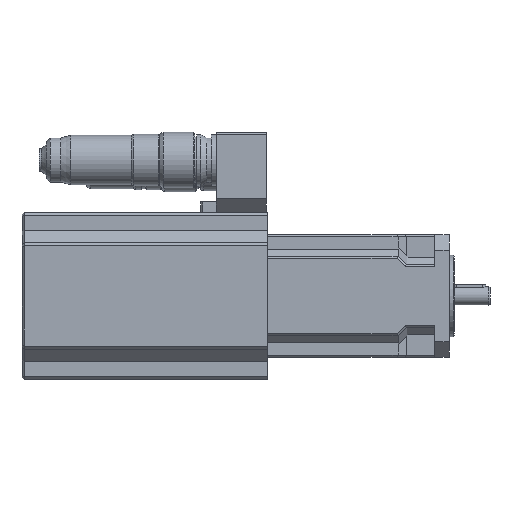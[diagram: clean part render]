
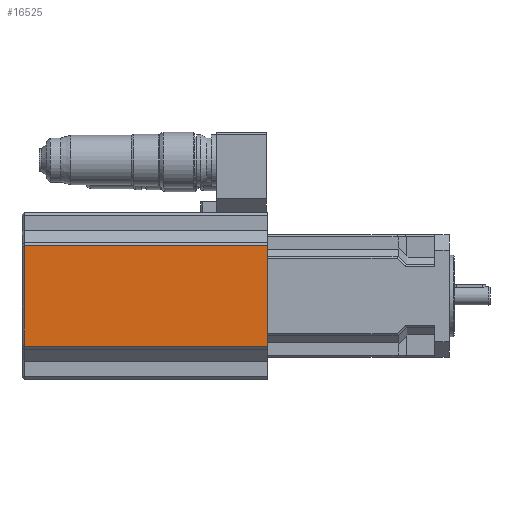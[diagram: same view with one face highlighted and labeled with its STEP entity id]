
A CAD part, front view. The second image highlights one B-rep face of the part: STEP entity #16525.
In plain terms, the highlighted planar face has unit normal (0, -1, 0).
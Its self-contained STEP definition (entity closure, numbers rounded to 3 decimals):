
#5058=CARTESIAN_POINT('',(78.621,-31.649,-34.));
#5059=VERTEX_POINT('',#5058);
#5066=CARTESIAN_POINT('',(78.621,-31.649,-83.));
#5067=VERTEX_POINT('',#5066);
#5068=CARTESIAN_POINT('',(78.621,-31.649,-34.));
#5069=DIRECTION('',(0.0,0.0,-1.0));
#5070=VECTOR('',#5069,49.);
#5071=LINE('',#5068,#5070);
#5072=EDGE_CURVE('',#5059,#5067,#5071,.T.);
#16484=CARTESIAN_POINT('',(-40.379,-31.649,-34.));
#16485=VERTEX_POINT('',#16484);
#16492=CARTESIAN_POINT('',(78.621,-31.649,-34.));
#16493=DIRECTION('',(-1.0,0.0,0.0));
#16494=VECTOR('',#16493,119.);
#16495=LINE('',#16492,#16494);
#16496=EDGE_CURVE('',#5059,#16485,#16495,.T.);
#16502=CARTESIAN_POINT('',(33.621,-31.649,-34.));
#16503=DIRECTION('',(0.0,-1.0,0.0));
#16504=DIRECTION('',(0.0,0.0,-1.0));
#16505=AXIS2_PLACEMENT_3D('',#16502,#16503,#16504);
#16506=PLANE('',#16505);
#16507=ORIENTED_EDGE('',*,*,#16496,.T.);
#16508=CARTESIAN_POINT('',(-40.379,-31.649,-83.));
#16509=VERTEX_POINT('',#16508);
#16510=CARTESIAN_POINT('',(-40.379,-31.649,-83.));
#16511=DIRECTION('',(0.0,0.,1.0));
#16512=VECTOR('',#16511,49.);
#16513=LINE('',#16510,#16512);
#16514=EDGE_CURVE('',#16509,#16485,#16513,.T.);
#16515=ORIENTED_EDGE('',*,*,#16514,.F.);
#16516=CARTESIAN_POINT('',(78.621,-31.649,-83.));
#16517=DIRECTION('',(-1.0,0.0,0.0));
#16518=VECTOR('',#16517,119.);
#16519=LINE('',#16516,#16518);
#16520=EDGE_CURVE('',#5067,#16509,#16519,.T.);
#16521=ORIENTED_EDGE('',*,*,#16520,.F.);
#16522=ORIENTED_EDGE('',*,*,#5072,.F.);
#16523=EDGE_LOOP('',(#16507,#16515,#16521,#16522));
#16524=FACE_OUTER_BOUND('',#16523,.T.);
#16525=ADVANCED_FACE('',(#16524),#16506,.T.);
